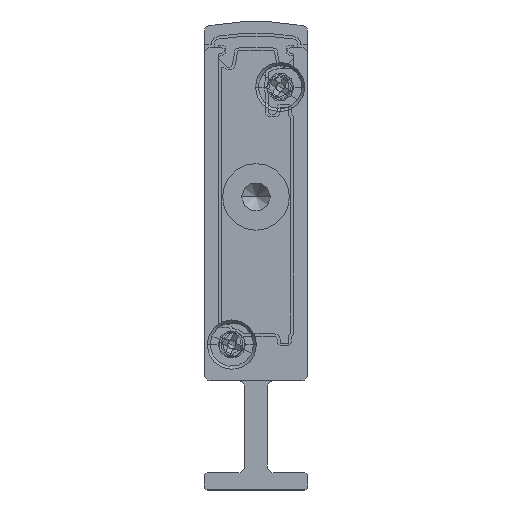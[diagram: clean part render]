
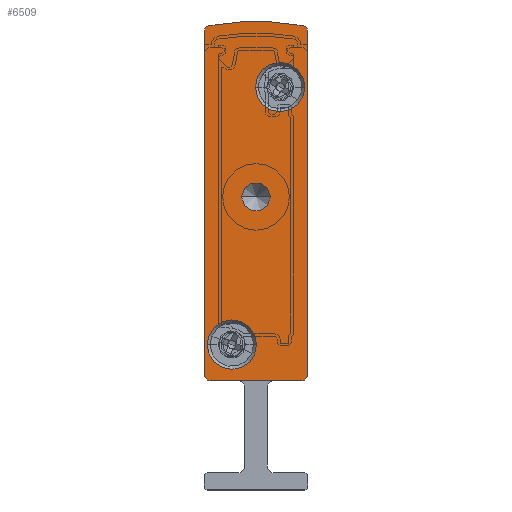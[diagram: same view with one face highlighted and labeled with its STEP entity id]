
A CAD part, front view. The second image highlights one B-rep face of the part: STEP entity #6509.
In plain terms, the highlighted planar face has unit normal (0, -1, 0).
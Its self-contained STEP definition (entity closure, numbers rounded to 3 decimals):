
#52 = CIRCLE ( 'NONE', #29199, 2.15 ) ;
#288 = AXIS2_PLACEMENT_3D ( 'NONE', #21297, #21408, #23958 ) ;
#323 = AXIS2_PLACEMENT_3D ( 'NONE', #19410, #14499, #29888 ) ;
#591 = CIRCLE ( 'NONE', #14189, 0.5 ) ;
#984 = CARTESIAN_POINT ( 'NONE',  ( 9., -2.5, 39.902 ) ) ;
#1261 = LINE ( 'NONE', #30872, #12666 ) ;
#1594 = CARTESIAN_POINT ( 'NONE',  ( 8.5, -2.5, 9.5 ) ) ;
#1960 = EDGE_CURVE ( 'NONE', #24683, #6897, #10082, .T. ) ;
#2058 = EDGE_CURVE ( 'NONE', #21719, #25638, #24149, .T. ) ;
#2166 = VECTOR ( 'NONE', #31685, 1000. ) ;
#2302 = VERTEX_POINT ( 'NONE', #20511 ) ;
#2496 = EDGE_CURVE ( 'NONE', #25006, #3513, #24912, .T. ) ;
#3216 = DIRECTION ( 'NONE',  ( 0., 0., -1. ) ) ;
#3277 = EDGE_CURVE ( 'NONE', #25638, #21719, #8260, .T. ) ;
#3513 = VERTEX_POINT ( 'NONE', #5316 ) ;
#3815 = AXIS2_PLACEMENT_3D ( 'NONE', #22785, #9686, #27704 ) ;
#5118 = VERTEX_POINT ( 'NONE', #28957 ) ;
#5316 = CARTESIAN_POINT ( 'NONE',  ( 0., -2.5, 10. ) ) ;
#5461 = DIRECTION ( 'NONE',  ( 0., -1., 0. ) ) ;
#5510 = ORIENTED_EDGE ( 'NONE', *, *, #27964, .F. ) ;
#5680 = DIRECTION ( 'NONE',  ( 1., 0., 0. ) ) ;
#6148 = EDGE_CURVE ( 'NONE', #24363, #7220, #16288, .T. ) ;
#6209 = VERTEX_POINT ( 'NONE', #23459 ) ;
#6306 = EDGE_LOOP ( 'NONE', ( #26879, #10472 ) ) ;
#6396 = VERTEX_POINT ( 'NONE', #19608 ) ;
#6509 = ADVANCED_FACE ( 'NONE', ( #25042, #31067, #15008, #8092 ), #7192, .F. ) ;
#6622 = EDGE_CURVE ( 'NONE', #12450, #33180, #33454, .T. ) ;
#6897 = VERTEX_POINT ( 'NONE', #9606 ) ;
#7192 = PLANE ( 'NONE',  #3815 ) ;
#7220 = VERTEX_POINT ( 'NONE', #1594 ) ;
#7410 = EDGE_LOOP ( 'NONE', ( #33433, #17430 ) ) ;
#7765 = CARTESIAN_POINT ( 'NONE',  ( 4.5, -2.5, 25.5 ) ) ;
#8092 = FACE_BOUND ( 'NONE', #7410, .T. ) ;
#8260 = CIRCLE ( 'NONE', #22581, 2.15 ) ;
#8530 = ORIENTED_EDGE ( 'NONE', *, *, #21716, .F. ) ;
#8708 = CARTESIAN_POINT ( 'NONE',  ( 9., -2.5, 10. ) ) ;
#9274 = CARTESIAN_POINT ( 'NONE',  ( 4.45, -2.5, 35.05 ) ) ;
#9606 = CARTESIAN_POINT ( 'NONE',  ( 5.75, -2.5, 25.5 ) ) ;
#9686 = DIRECTION ( 'NONE',  ( 0., 1., 0. ) ) ;
#10082 = CIRCLE ( 'NONE', #17896, 1.25 ) ;
#10472 = ORIENTED_EDGE ( 'NONE', *, *, #2058, .F. ) ;
#11619 = ORIENTED_EDGE ( 'NONE', *, *, #6148, .F. ) ;
#11929 = ORIENTED_EDGE ( 'NONE', *, *, #23130, .F. ) ;
#12444 = CARTESIAN_POINT ( 'NONE',  ( 6.6, -2.5, 35.05 ) ) ;
#12450 = VERTEX_POINT ( 'NONE', #28063 ) ;
#12653 = EDGE_CURVE ( 'NONE', #2302, #5118, #52, .T. ) ;
#12666 = VECTOR ( 'NONE', #25367, 1000. ) ;
#12671 = DIRECTION ( 'NONE',  ( 1., 0., 0. ) ) ;
#13135 = DIRECTION ( 'NONE',  ( 0., 1., 0. ) ) ;
#13392 = DIRECTION ( 'NONE',  ( -1., 0., 0. ) ) ;
#14189 = AXIS2_PLACEMENT_3D ( 'NONE', #27387, #14573, #17299 ) ;
#14499 = DIRECTION ( 'NONE',  ( 0., 1., 0. ) ) ;
#14573 = DIRECTION ( 'NONE',  ( 0., 1., 0. ) ) ;
#14640 = EDGE_LOOP ( 'NONE', ( #5510, #11929, #19310, #26369, #11619, #27144, #24788, #8530 ) ) ;
#14981 = CARTESIAN_POINT ( 'NONE',  ( 4.5, -2.5, 25.5 ) ) ;
#15008 = FACE_OUTER_BOUND ( 'NONE', #14640, .T. ) ;
#15131 = CARTESIAN_POINT ( 'NONE',  ( 8.75, -2.5, 35.05 ) ) ;
#15738 = AXIS2_PLACEMENT_3D ( 'NONE', #16427, #16748, #19002 ) ;
#16288 = CIRCLE ( 'NONE', #23132, 0.5 ) ;
#16427 = CARTESIAN_POINT ( 'NONE',  ( 2.4, -2.5, 12.65 ) ) ;
#16748 = DIRECTION ( 'NONE',  ( 0., -1., 0. ) ) ;
#17126 = ORIENTED_EDGE ( 'NONE', *, *, #31041, .F. ) ;
#17299 = DIRECTION ( 'NONE',  ( -1., 0., 0. ) ) ;
#17430 = ORIENTED_EDGE ( 'NONE', *, *, #24147, .T. ) ;
#17896 = AXIS2_PLACEMENT_3D ( 'NONE', #7765, #18285, #20755 ) ;
#18285 = DIRECTION ( 'NONE',  ( 0., 1., 0. ) ) ;
#18474 = CIRCLE ( 'NONE', #25713, 1.25 ) ;
#18525 = AXIS2_PLACEMENT_3D ( 'NONE', #28923, #19046, #5680 ) ;
#18865 = AXIS2_PLACEMENT_3D ( 'NONE', #28975, #26387, #13392 ) ;
#19002 = DIRECTION ( 'NONE',  ( 1., 0., 0. ) ) ;
#19046 = DIRECTION ( 'NONE',  ( 0., -1., 0. ) ) ;
#19310 = ORIENTED_EDGE ( 'NONE', *, *, #2496, .F. ) ;
#19410 = CARTESIAN_POINT ( 'NONE',  ( 4.5, -2.5, 17.092 ) ) ;
#19608 = CARTESIAN_POINT ( 'NONE',  ( 0.408, -2.5, 40.393 ) ) ;
#19653 = CIRCLE ( 'NONE', #15738, 2.15 ) ;
#20019 = ORIENTED_EDGE ( 'NONE', *, *, #12653, .F. ) ;
#20511 = CARTESIAN_POINT ( 'NONE',  ( 0.25, -2.5, 12.65 ) ) ;
#20755 = DIRECTION ( 'NONE',  ( -1., 0., 0. ) ) ;
#21083 = DIRECTION ( 'NONE',  ( 1., 0., 0. ) ) ;
#21297 = CARTESIAN_POINT ( 'NONE',  ( 0.5, -2.5, 10. ) ) ;
#21408 = DIRECTION ( 'NONE',  ( 0., 1., 0. ) ) ;
#21675 = EDGE_CURVE ( 'NONE', #33180, #24363, #27767, .T. ) ;
#21716 = EDGE_CURVE ( 'NONE', #6396, #12450, #26125, .T. ) ;
#21719 = VERTEX_POINT ( 'NONE', #9274 ) ;
#21744 = VECTOR ( 'NONE', #3216, 1000. ) ;
#22011 = CARTESIAN_POINT ( 'NONE',  ( 0.5, -2.5, 9.5 ) ) ;
#22268 = EDGE_CURVE ( 'NONE', #7220, #25006, #27237, .T. ) ;
#22581 = AXIS2_PLACEMENT_3D ( 'NONE', #12444, #30422, #12671 ) ;
#22637 = DIRECTION ( 'NONE',  ( 0., 1., 0. ) ) ;
#22785 = CARTESIAN_POINT ( 'NONE',  ( 0.5, -2.5, 39.902 ) ) ;
#23130 = EDGE_CURVE ( 'NONE', #3513, #6209, #1261, .T. ) ;
#23132 = AXIS2_PLACEMENT_3D ( 'NONE', #28503, #13135, #26461 ) ;
#23459 = CARTESIAN_POINT ( 'NONE',  ( 0., -2.5, 39.902 ) ) ;
#23740 = CARTESIAN_POINT ( 'NONE',  ( 0.5, -2.5, 9.5 ) ) ;
#23958 = DIRECTION ( 'NONE',  ( -1., 0., 0. ) ) ;
#24147 = EDGE_CURVE ( 'NONE', #6897, #24683, #18474, .T. ) ;
#24149 = CIRCLE ( 'NONE', #18525, 2.15 ) ;
#24363 = VERTEX_POINT ( 'NONE', #8708 ) ;
#24459 = EDGE_LOOP ( 'NONE', ( #17126, #20019 ) ) ;
#24683 = VERTEX_POINT ( 'NONE', #25761 ) ;
#24788 = ORIENTED_EDGE ( 'NONE', *, *, #6622, .F. ) ;
#24912 = CIRCLE ( 'NONE', #288, 0.5 ) ;
#25006 = VERTEX_POINT ( 'NONE', #22011 ) ;
#25042 = FACE_BOUND ( 'NONE', #6306, .T. ) ;
#25367 = DIRECTION ( 'NONE',  ( 0., 0., 1. ) ) ;
#25638 = VERTEX_POINT ( 'NONE', #15131 ) ;
#25713 = AXIS2_PLACEMENT_3D ( 'NONE', #14981, #22637, #30472 ) ;
#25761 = CARTESIAN_POINT ( 'NONE',  ( 3.25, -2.5, 25.5 ) ) ;
#26125 = CIRCLE ( 'NONE', #323, 23.658 ) ;
#26369 = ORIENTED_EDGE ( 'NONE', *, *, #22268, .F. ) ;
#26387 = DIRECTION ( 'NONE',  ( 0., 1., 0. ) ) ;
#26461 = DIRECTION ( 'NONE',  ( -1., 0., 0. ) ) ;
#26879 = ORIENTED_EDGE ( 'NONE', *, *, #3277, .F. ) ;
#27144 = ORIENTED_EDGE ( 'NONE', *, *, #21675, .F. ) ;
#27237 = LINE ( 'NONE', #23740, #2166 ) ;
#27387 = CARTESIAN_POINT ( 'NONE',  ( 0.5, -2.5, 39.902 ) ) ;
#27704 = DIRECTION ( 'NONE',  ( -1., 0., 0. ) ) ;
#27767 = LINE ( 'NONE', #984, #21744 ) ;
#27964 = EDGE_CURVE ( 'NONE', #6209, #6396, #591, .T. ) ;
#28063 = CARTESIAN_POINT ( 'NONE',  ( 8.592, -2.5, 40.393 ) ) ;
#28267 = CARTESIAN_POINT ( 'NONE',  ( 9., -2.5, 39.902 ) ) ;
#28503 = CARTESIAN_POINT ( 'NONE',  ( 8.5, -2.5, 10. ) ) ;
#28923 = CARTESIAN_POINT ( 'NONE',  ( 6.6, -2.5, 35.05 ) ) ;
#28957 = CARTESIAN_POINT ( 'NONE',  ( 4.55, -2.5, 12.65 ) ) ;
#28975 = CARTESIAN_POINT ( 'NONE',  ( 8.5, -2.5, 39.902 ) ) ;
#29199 = AXIS2_PLACEMENT_3D ( 'NONE', #33430, #5461, #21083 ) ;
#29888 = DIRECTION ( 'NONE',  ( -1., 0., 0. ) ) ;
#30422 = DIRECTION ( 'NONE',  ( 0., -1., 0. ) ) ;
#30472 = DIRECTION ( 'NONE',  ( -1., 0., 0. ) ) ;
#30872 = CARTESIAN_POINT ( 'NONE',  ( 0., -2.5, 39.902 ) ) ;
#31041 = EDGE_CURVE ( 'NONE', #5118, #2302, #19653, .T. ) ;
#31067 = FACE_BOUND ( 'NONE', #24459, .T. ) ;
#31685 = DIRECTION ( 'NONE',  ( -1., 0., 0. ) ) ;
#33180 = VERTEX_POINT ( 'NONE', #28267 ) ;
#33430 = CARTESIAN_POINT ( 'NONE',  ( 2.4, -2.5, 12.65 ) ) ;
#33433 = ORIENTED_EDGE ( 'NONE', *, *, #1960, .T. ) ;
#33454 = CIRCLE ( 'NONE', #18865, 0.5 ) ;
